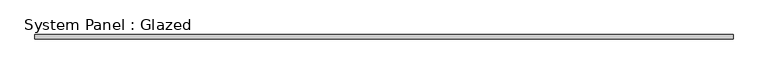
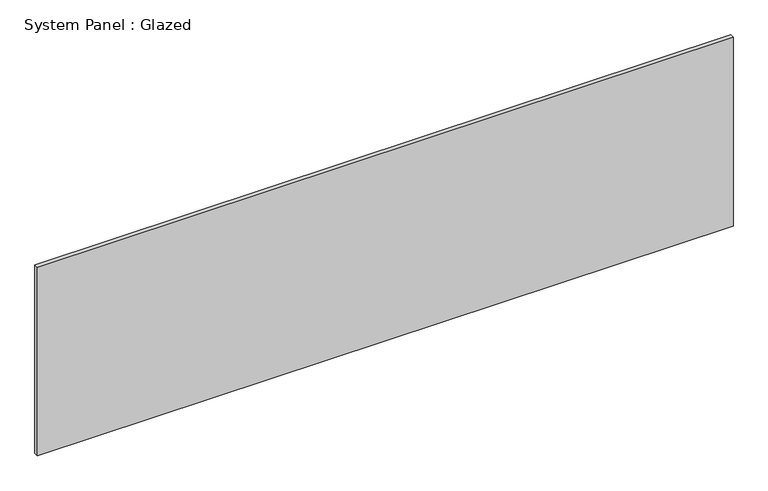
"""IFC4 building model written with IfcOpenShell, lengths in millimetres: plate geometry, System Panel : Glazed."""

from ifc_helpers import new_model, si_unit, origin, origin_with_axes, place, context, project, spatial, polyline, outline, extrude, source, transform, mapped, element, save


def system_panel_glazed_0282c8a9(model_context):
    return source(origin(), model_context, "Body", "SweptSolid", [
        extrude(outline(polyline([(1962.5, -49.5), (-1962.5, -49.5), (-1962.5, -24.5), (1962.5, -24.5), (1962.5, -49.5)])), origin_with_axes(), (0.0, 0.0, 1.0), 1125.0),
    ])


if __name__ == "__main__":
    model = new_model("IFC4")
    model_context = context("Model", 3, world=origin())
    ifc_project = project(units=[si_unit("LENGTHUNIT", "METRE", prefix="MILLI")], contexts=[model_context])
    site = spatial("IfcSite", under=ifc_project)
    building = spatial("IfcBuilding", under=site)
    placement = place(None, origin())
    system_panel_glazed_shape = system_panel_glazed_0282c8a9(model_context)
    element("IfcPlate", 1, ObjectType="System Panel : Glazed", at=placement, inside=building, context=model_context, shape_type="MappedRepresentation", body=[
        mapped(system_panel_glazed_shape, transform((0.0, 0.0, 0.0), x_axis=(1.0, 0.0, 0.0), y_axis=(0.0, 1.0, 0.0), z_axis=(0.0, 0.0, 1.0))),
    ])
    save(model, "model.ifc")
